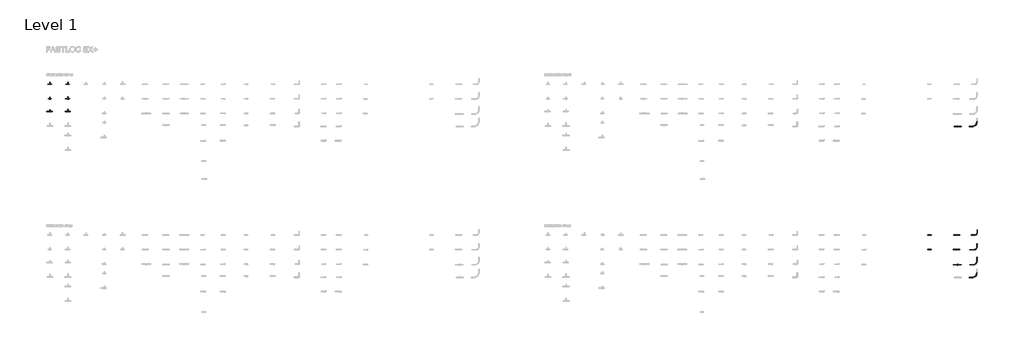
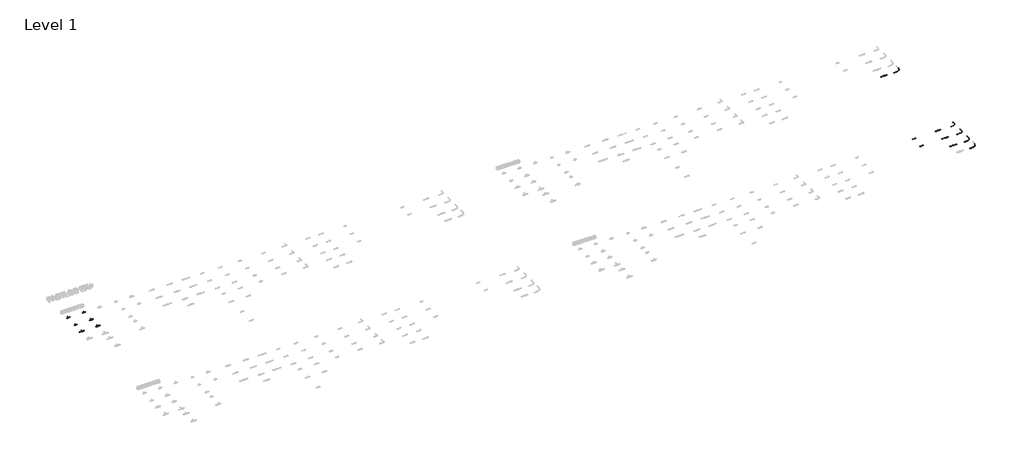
# One storey, part 10 of 16: 36 pipe segments, 21 pipe fittings.
"""IFC4 building model written with IfcOpenShell, lengths in millimetres."""

from ifc_helpers import new_model, si_unit, point, frame, frame_2d, origin, place, context, project, spatial, circle_curve, trimmed, segment, composite_curve, outline, extrude, transform, mapped, element, save
from components import pipe_fitting_24e9e25e, pipe_fitting_ffedae39, pipe_fitting_50552096, pipe_fitting_31065531, pipe_fitting_67dfde5a, pipe_fitting_bb304fa9, pipe_fitting_59775212, pipe_fitting_747b917b, pipe_fitting_d1a48cca, pipe_fitting_e42a4af1, pipe_fitting_ec6341fa, pipe_fitting_f3faa13c, pipe_fitting_a9a2f976, pipe_fitting_749d9a03, pipe_fitting_c9c9eba3, pipe_fitting_037c3912, pipe_fitting_a8fbe6ac, pipe_fitting_beb2161e, pipe_fitting_c1b6c9bd, pipe_fitting_c244d94c

model = new_model("IFC4")

# Units and contexts
model_context = context("Model", 3, world=origin())
ifc_project = project(units=[si_unit("LENGTHUNIT", "METRE", prefix="MILLI")], contexts=[model_context])

# Site, building, storey
site = spatial("IfcSite", under=ifc_project)
building = spatial("IfcBuilding", under=site)
storey = spatial("IfcBuildingStorey", under=building, Name="Level 1", Elevation=0.0)

# Pipe fittings
placement = place(None, origin())
pipe_fitting_shape = pipe_fitting_24e9e25e(model_context)
element("IfcPipeFitting", 1, ObjectType="FASTLOC_Blanking plug EX+ : FSL Bp EX+ AT", at=placement, inside=storey, context=model_context, shape_type="MappedRepresentation", body=[
    mapped(pipe_fitting_shape, transform((49851.3241081, -7087.6479967, 0.0), x_axis=(1.0, 0.0, 0.0), y_axis=(0.0, 1.0, 0.0), z_axis=(0.0, 0.0, 1.0))),
])
pipe_fitting_2_shape = pipe_fitting_ffedae39(model_context)
element("IfcPipeFitting", 2, ObjectType="FASTLOC_ML_bend : FSL ML DE", at=placement, inside=storey, context=model_context, shape_type="MappedRepresentation", body=[
    mapped(pipe_fitting_2_shape, transform((52570.2040344, -311.8142398, 0.0), x_axis=(1.0, 0.0, 0.0), y_axis=(0.0, 1.0, 0.0), z_axis=(0.0, 0.0, 1.0))),
])
pipe_fitting_3_shape = pipe_fitting_50552096(model_context)
element("IfcPipeFitting", 3, ObjectType="FASTLOC_ML_bend : FSL ML AT", at=placement, inside=storey, context=model_context, shape_type="MappedRepresentation", body=[
    mapped(pipe_fitting_3_shape, transform((52570.2040344, -7095.6479967, 0.0), x_axis=(1.0, 0.0, 0.0), y_axis=(0.0, 1.0, 0.0), z_axis=(0.0, 0.0, 1.0))),
])
pipe_fitting_4_shape = pipe_fitting_31065531(model_context)
element("IfcPipeFitting", 4, ObjectType="FASTLOC_ML_bend : FSL ML AT", at=placement, inside=storey, context=model_context, shape_type="MappedRepresentation", body=[
    mapped(pipe_fitting_4_shape, transform((52570.2040344, -7918.854246, 0.0), x_axis=(1.0, 0.0, 0.0), y_axis=(0.0, 1.0, 0.0), z_axis=(0.0, 0.0, 1.0))),
])
element("IfcPipeFitting", 5, ObjectType="FASTLOC_ML_bend : FSL ML AT", at=placement, inside=storey, context=model_context, shape_type="MappedRepresentation", body=[
    mapped(pipe_fitting_2_shape, transform((52570.2040344, -8611.8142398, 0.0), x_axis=(1.0, 0.0, 0.0), y_axis=(0.0, 1.0, 0.0), z_axis=(0.0, 0.0, 1.0))),
])
pipe_fitting_5_shape = pipe_fitting_67dfde5a(model_context)
element("IfcPipeFitting", 6, ObjectType="FASTLOC_T-piece_EX+ : FSL T-Piece EX+ DE", at=placement, inside=storey, context=model_context, shape_type="MappedRepresentation", body=[
    mapped(pipe_fitting_5_shape, transform((1562.9146925, 2012.3520033, 0.0), x_axis=(1.0, 0.0, 0.0), y_axis=(0.0, 1.0, 0.0), z_axis=(0.0, 0.0, 1.0))),
])
pipe_fitting_6_shape = pipe_fitting_bb304fa9(model_context)
element("IfcPipeFitting", 7, ObjectType="FASTLOC_T-piece_EX+ : FSL T-Piece EX+ DE", at=placement, inside=storey, context=model_context, shape_type="MappedRepresentation", body=[
    mapped(pipe_fitting_6_shape, transform((1562.9146925, 1212.3520033, 0.0), x_axis=(1.0, 0.0, 0.0), y_axis=(0.0, 1.0, 0.0), z_axis=(0.0, 0.0, 1.0))),
])
pipe_fitting_7_shape = pipe_fitting_59775212(model_context)
element("IfcPipeFitting", 8, ObjectType="FASTLOC_T-piece_EX+ : FSL T-Piece EX+ DE", at=placement, inside=storey, context=model_context, shape_type="MappedRepresentation", body=[
    mapped(pipe_fitting_7_shape, transform((1562.9146925, 512.3520033, 0.0), x_axis=(1.0, 0.0, 0.0), y_axis=(0.0, 1.0, 0.0), z_axis=(0.0, 0.0, 1.0))),
])
pipe_fitting_8_shape = pipe_fitting_747b917b(model_context)
element("IfcPipeFitting", 9, ObjectType="FASTLOC_T-piece_EX+ : FSL T-Piece EX+ DE", at=placement, inside=storey, context=model_context, shape_type="MappedRepresentation", body=[
    mapped(pipe_fitting_8_shape, transform((2562.9146925, 2012.3520033, 0.0), x_axis=(1.0, 0.0, 0.0), y_axis=(0.0, 1.0, 0.0), z_axis=(0.0, 0.0, 1.0))),
])
pipe_fitting_9_shape = pipe_fitting_d1a48cca(model_context)
element("IfcPipeFitting", 10, ObjectType="FASTLOC_T-piece_EX+ : FSL T-Piece EX+ DE", at=placement, inside=storey, context=model_context, shape_type="MappedRepresentation", body=[
    mapped(pipe_fitting_9_shape, transform((2562.9146925, 1212.3520033, 0.0), x_axis=(1.0, 0.0, 0.0), y_axis=(0.0, 1.0, 0.0), z_axis=(0.0, 0.0, 1.0))),
])
pipe_fitting_10_shape = pipe_fitting_e42a4af1(model_context)
element("IfcPipeFitting", 11, ObjectType="FASTLOC_T-piece_EX+ : FSL T-Piece EX+ DE", at=placement, inside=storey, context=model_context, shape_type="MappedRepresentation", body=[
    mapped(pipe_fitting_10_shape, transform((2562.9146925, 512.3520033, 0.0), x_axis=(1.0, 0.0, 0.0), y_axis=(0.0, 1.0, 0.0), z_axis=(0.0, 0.0, 1.0))),
])
pipe_fitting_11_shape = pipe_fitting_ec6341fa(model_context)
element("IfcPipeFitting", 12, ObjectType="FASTLOC_Blanking plug EX+ : FSL Bp EX+ AT", at=placement, inside=storey, context=model_context, shape_type="MappedRepresentation", body=[
    mapped(pipe_fitting_11_shape, transform((49851.3241081, -6287.6479967, 0.0), x_axis=(1.0, 0.0, 0.0), y_axis=(0.0, 1.0, 0.0), z_axis=(0.0, 0.0, 1.0))),
])
pipe_fitting_12_shape = pipe_fitting_f3faa13c(model_context)
element("IfcPipeFitting", 13, ObjectType="FASTLOC_Adapter coupling EX+ : FSL TC EX+ AT", at=placement, inside=storey, context=model_context, shape_type="MappedRepresentation", body=[
    mapped(pipe_fitting_12_shape, transform((51491.3241081, -6287.6479967, 13.7), x_axis=(1.0, 0.0, 0.0), y_axis=(0.0, 1.0, 0.0), z_axis=(0.0, 0.0, 1.0))),
])
pipe_fitting_13_shape = pipe_fitting_a9a2f976(model_context)
element("IfcPipeFitting", 14, ObjectType="FASTLOC_ML_bend : FSL ML AT", at=placement, inside=storey, context=model_context, shape_type="MappedRepresentation", body=[
    mapped(pipe_fitting_13_shape, transform((52570.2040344, -6287.6479967, 0.0), x_axis=(1.0, 0.0, 0.0), y_axis=(0.0, 1.0, 0.0), z_axis=(0.0, 0.0, 1.0))),
])
pipe_fitting_14_shape = pipe_fitting_749d9a03(model_context)
element("IfcPipeFitting", 15, ObjectType="RAUTITAN_Sleeve PX : RTI S PX", at=placement, inside=storey, context=model_context, shape_type="MappedRepresentation", body=[
    mapped(pipe_fitting_14_shape, transform((51505.6241081, -7087.6479967, 13.7), x_axis=(1.0, 0.0, 0.0), y_axis=(0.0, 1.0, 0.0), z_axis=(0.0, 0.0, 1.0))),
])
pipe_fitting_15_shape = pipe_fitting_c9c9eba3(model_context)
element("IfcPipeFitting", 16, ObjectType="RAUTITAN_Sleeve PX : RTI S PX", at=placement, inside=storey, context=model_context, shape_type="MappedRepresentation", body=[
    mapped(pipe_fitting_15_shape, transform((51505.0241081, -6287.6479967, 13.7), x_axis=(1.0, 0.0, 0.0), y_axis=(0.0, 1.0, 0.0), z_axis=(0.0, 0.0, 1.0))),
])
pipe_fitting_16_shape = pipe_fitting_037c3912(model_context)
element("IfcPipeFitting", 17, ObjectType="RAUTITAN_Sleeve PX : RTI S PX", at=placement, inside=storey, context=model_context, shape_type="MappedRepresentation", body=[
    mapped(pipe_fitting_16_shape, transform((51507.9241081, -7918.854246, 13.7), x_axis=(1.0, 0.0, 0.0), y_axis=(0.0, 1.0, 0.0), z_axis=(0.0, 0.0, 1.0))),
])
pipe_fitting_17_shape = pipe_fitting_a8fbe6ac(model_context)
element("IfcPipeFitting", 18, ObjectType="RAUTITAN_Sleeve PX : RTI S PX", at=placement, inside=storey, context=model_context, shape_type="MappedRepresentation", body=[
    mapped(pipe_fitting_17_shape, transform((51510.6241081, -311.8142398, 13.7), x_axis=(1.0, 0.0, 0.0), y_axis=(0.0, 1.0, 0.0), z_axis=(0.0, 0.0, 1.0))),
])
pipe_fitting_18_shape = pipe_fitting_beb2161e(model_context)
element("IfcPipeFitting", 19, ObjectType="FASTLOC_Adapter coupling EX+ : FSL TC EX+ DE", at=placement, inside=storey, context=model_context, shape_type="MappedRepresentation", body=[
    mapped(pipe_fitting_18_shape, transform((51491.3241081, -311.8142398, 13.7), x_axis=(1.0, 0.0, 0.0), y_axis=(0.0, 1.0, 0.0), z_axis=(0.0, 0.0, 1.0))),
])
pipe_fitting_19_shape = pipe_fitting_c1b6c9bd(model_context)
element("IfcPipeFitting", 20, ObjectType="FASTLOC_Adapter coupling EX+ : FSL TC EX+ AT", at=placement, inside=storey, context=model_context, shape_type="MappedRepresentation", body=[
    mapped(pipe_fitting_19_shape, transform((51491.3241081, -7087.6479967, 13.7), x_axis=(1.0, 0.0, 0.0), y_axis=(0.0, 1.0, 0.0), z_axis=(0.0, 0.0, 1.0))),
])
pipe_fitting_20_shape = pipe_fitting_c244d94c(model_context)
element("IfcPipeFitting", 21, ObjectType="FASTLOC_Adapter coupling EX+ : FSL TC EX+ AT", at=placement, inside=storey, context=model_context, shape_type="MappedRepresentation", body=[
    mapped(pipe_fitting_20_shape, transform((51491.3241081, -7918.854246, 13.7), x_axis=(1.0, 0.0, 0.0), y_axis=(0.0, 1.0, 0.0), z_axis=(0.0, 0.0, 1.0))),
])

# Pipe segments
element("IfcPipeSegment", 22, ObjectType="FASTLOC EX+ ML DE bar", at=placement, inside=storey, context=model_context, shape_type="SweptSolid", body=[
    extrude(outline(composite_curve([segment(trimmed(circle_curve(frame_2d((2012.3520033, 0.0)), 10.0), [point((2002.3520033, 0.0))], [point((2012.3520033, 10.0))], False, "CARTESIAN"), True, "CONTINUOUS"), segment(trimmed(circle_curve(frame_2d((2012.3520033, 0.0)), 10.0), [point((2012.3520033, 10.0))], [point((2022.3520033, 0.0))], False, "CARTESIAN"), True, "CONTINUOUS"), segment(trimmed(circle_curve(frame_2d((2012.3520033, 0.0)), 10.0), [point((2022.3520033, 0.0))], [point((2012.3520033, -10.0))], False, "CARTESIAN"), True, "CONTINUOUS"), segment(trimmed(circle_curve(frame_2d((2012.3520033, 0.0)), 10.0), [point((2012.3520033, -10.0))], [point((2002.3520033, 0.0))], False, "CARTESIAN"), True, "CONTINUOUS")], self_intersect=False)), frame((2578.2146925, 0.0, 0.0), z_axis=(1.0, 0.0, 0.0), x_axis=(0.0, 1.0, 0.0)), (0.0, 0.0, 1.0), 55.0),
])
element("IfcPipeSegment", 23, ObjectType="FASTLOC EX+ ML DE bar", at=placement, inside=storey, context=model_context, shape_type="SweptSolid", body=[
    extrude(outline(composite_curve([segment(trimmed(circle_curve(frame_2d((0.0, 2562.9146925)), 8.0), [point((0.0, 2570.9146925))], [point((8.0, 2562.9146925))], False, "CARTESIAN"), True, "CONTINUOUS"), segment(trimmed(circle_curve(frame_2d((0.0, 2562.9146925)), 8.0), [point((8.0, 2562.9146925))], [point((0.0, 2554.9146925))], False, "CARTESIAN"), True, "CONTINUOUS"), segment(trimmed(circle_curve(frame_2d((0.0, 2562.9146925)), 8.0), [point((0.0, 2554.9146925))], [point((-8.0, 2562.9146925))], False, "CARTESIAN"), True, "CONTINUOUS"), segment(trimmed(circle_curve(frame_2d((0.0, 2562.9146925)), 8.0), [point((-8.0, 2562.9146925))], [point((0.0, 2570.9146925))], False, "CARTESIAN"), True, "CONTINUOUS")], self_intersect=False)), frame((0.0, 2038.6520033, 0.0), z_axis=(0.0, 1.0, 0.0), x_axis=(0.0, 0.0, 1.0)), (0.0, 0.0, 1.0), 70.0),
])
element("IfcPipeSegment", 24, ObjectType="FASTLOC EX+ ML DE bar", at=placement, inside=storey, context=model_context, shape_type="SweptSolid", body=[
    extrude(outline(composite_curve([segment(trimmed(circle_curve(frame_2d((2012.3520033, 0.0)), 10.0), [point((2022.3520033, 0.0))], [point((2012.3520033, -10.0))], False, "CARTESIAN"), True, "CONTINUOUS"), segment(trimmed(circle_curve(frame_2d((2012.3520033, 0.0)), 10.0), [point((2012.3520033, -10.0))], [point((2002.3520033, 0.0))], False, "CARTESIAN"), True, "CONTINUOUS"), segment(trimmed(circle_curve(frame_2d((2012.3520033, 0.0)), 10.0), [point((2002.3520033, 0.0))], [point((2012.3520033, 10.0))], False, "CARTESIAN"), True, "CONTINUOUS"), segment(trimmed(circle_curve(frame_2d((2012.3520033, 0.0)), 10.0), [point((2012.3520033, 10.0))], [point((2022.3520033, 0.0))], False, "CARTESIAN"), True, "CONTINUOUS")], self_intersect=False)), frame((2437.6146925, 0.0, 0.0), z_axis=(1.0, 0.0, 0.0), x_axis=(0.0, 1.0, 0.0)), (0.0, 0.0, 1.0), 110.0),
])
element("IfcPipeSegment", 25, ObjectType="FASTLOC EX+ ML DE bar", at=placement, inside=storey, context=model_context, shape_type="SweptSolid", body=[
    extrude(outline(composite_curve([segment(trimmed(circle_curve(frame_2d((1212.3520033, 0.0)), 12.5), [point((1199.8520033, 0.0))], [point((1212.3520033, 12.5))], False, "CARTESIAN"), True, "CONTINUOUS"), segment(trimmed(circle_curve(frame_2d((1212.3520033, 0.0)), 12.5), [point((1212.3520033, 12.5))], [point((1224.8520033, 0.0))], False, "CARTESIAN"), True, "CONTINUOUS"), segment(trimmed(circle_curve(frame_2d((1212.3520033, 0.0)), 12.5), [point((1224.8520033, 0.0))], [point((1212.3520033, -12.5))], False, "CARTESIAN"), True, "CONTINUOUS"), segment(trimmed(circle_curve(frame_2d((1212.3520033, 0.0)), 12.5), [point((1212.3520033, -12.5))], [point((1199.8520033, 0.0))], False, "CARTESIAN"), True, "CONTINUOUS")], self_intersect=False)), frame((2581.0146925, 0.0, 0.0), z_axis=(1.0, 0.0, 0.0), x_axis=(0.0, 1.0, 0.0)), (0.0, 0.0, 1.0), 80.0),
])
element("IfcPipeSegment", 26, ObjectType="FASTLOC EX+ ML DE bar", at=placement, inside=storey, context=model_context, shape_type="SweptSolid", body=[
    extrude(outline(composite_curve([segment(trimmed(circle_curve(frame_2d((0.0, 2562.9146925)), 10.0), [point((0.0, 2572.9146925))], [point((10.0, 2562.9146925))], False, "CARTESIAN"), True, "CONTINUOUS"), segment(trimmed(circle_curve(frame_2d((0.0, 2562.9146925)), 10.0), [point((10.0, 2562.9146925))], [point((0.0, 2552.9146925))], False, "CARTESIAN"), True, "CONTINUOUS"), segment(trimmed(circle_curve(frame_2d((0.0, 2562.9146925)), 10.0), [point((0.0, 2552.9146925))], [point((-10.0, 2562.9146925))], False, "CARTESIAN"), True, "CONTINUOUS"), segment(trimmed(circle_curve(frame_2d((0.0, 2562.9146925)), 10.0), [point((-10.0, 2562.9146925))], [point((0.0, 2572.9146925))], False, "CARTESIAN"), True, "CONTINUOUS")], self_intersect=False)), frame((0.0, 1241.5520033, 0.0), z_axis=(0.0, 1.0, 0.0), x_axis=(0.0, 0.0, 1.0)), (0.0, 0.0, 1.0), 90.0),
])
element("IfcPipeSegment", 27, ObjectType="FASTLOC EX+ ML DE bar", at=placement, inside=storey, context=model_context, shape_type="SweptSolid", body=[
    extrude(outline(composite_curve([segment(trimmed(circle_curve(frame_2d((1212.3520033, 0.0)), 12.5), [point((1224.8520033, 0.0))], [point((1212.3520033, -12.5))], False, "CARTESIAN"), True, "CONTINUOUS"), segment(trimmed(circle_curve(frame_2d((1212.3520033, 0.0)), 12.5), [point((1212.3520033, -12.5))], [point((1199.8520033, 0.0))], False, "CARTESIAN"), True, "CONTINUOUS"), segment(trimmed(circle_curve(frame_2d((1212.3520033, 0.0)), 12.5), [point((1199.8520033, 0.0))], [point((1212.3520033, 12.5))], False, "CARTESIAN"), True, "CONTINUOUS"), segment(trimmed(circle_curve(frame_2d((1212.3520033, 0.0)), 12.5), [point((1212.3520033, 12.5))], [point((1224.8520033, 0.0))], False, "CARTESIAN"), True, "CONTINUOUS")], self_intersect=False)), frame((2409.8146925, 0.0, 0.0), z_axis=(1.0, 0.0, 0.0), x_axis=(0.0, 1.0, 0.0)), (0.0, 0.0, 1.0), 135.0),
])
element("IfcPipeSegment", 28, ObjectType="FASTLOC EX+ ML DE bar", at=placement, inside=storey, context=model_context, shape_type="SweptSolid", body=[
    extrude(outline(composite_curve([segment(trimmed(circle_curve(frame_2d((512.3520033, 0.0)), 16.0), [point((496.3520033, 0.0))], [point((512.3520033, 16.0))], False, "CARTESIAN"), True, "CONTINUOUS"), segment(trimmed(circle_curve(frame_2d((512.3520033, 0.0)), 16.0), [point((512.3520033, 16.0))], [point((528.3520033, 0.0))], False, "CARTESIAN"), True, "CONTINUOUS"), segment(trimmed(circle_curve(frame_2d((512.3520033, 0.0)), 16.0), [point((528.3520033, 0.0))], [point((512.3520033, -16.0))], False, "CARTESIAN"), True, "CONTINUOUS"), segment(trimmed(circle_curve(frame_2d((512.3520033, 0.0)), 16.0), [point((512.3520033, -16.0))], [point((496.3520033, 0.0))], False, "CARTESIAN"), True, "CONTINUOUS")], self_intersect=False)), frame((2581.2146925, 0.0, 0.0), z_axis=(1.0, 0.0, 0.0), x_axis=(0.0, 1.0, 0.0)), (0.0, 0.0, 1.0), 90.0),
])
element("IfcPipeSegment", 29, ObjectType="FASTLOC EX+ ML DE bar", at=placement, inside=storey, context=model_context, shape_type="SweptSolid", body=[
    extrude(outline(composite_curve([segment(trimmed(circle_curve(frame_2d((0.0, 2562.9146925)), 8.0), [point((0.0, 2570.9146925))], [point((8.0, 2562.9146925))], False, "CARTESIAN"), True, "CONTINUOUS"), segment(trimmed(circle_curve(frame_2d((0.0, 2562.9146925)), 8.0), [point((8.0, 2562.9146925))], [point((0.0, 2554.9146925))], False, "CARTESIAN"), True, "CONTINUOUS"), segment(trimmed(circle_curve(frame_2d((0.0, 2562.9146925)), 8.0), [point((0.0, 2554.9146925))], [point((-8.0, 2562.9146925))], False, "CARTESIAN"), True, "CONTINUOUS"), segment(trimmed(circle_curve(frame_2d((0.0, 2562.9146925)), 8.0), [point((-8.0, 2562.9146925))], [point((0.0, 2570.9146925))], False, "CARTESIAN"), True, "CONTINUOUS")], self_intersect=False)), frame((0.0, 546.2520033, 0.0), z_axis=(0.0, 1.0, 0.0), x_axis=(0.0, 0.0, 1.0)), (0.0, 0.0, 1.0), 90.0),
])
element("IfcPipeSegment", 30, ObjectType="FASTLOC EX+ ML DE bar", at=placement, inside=storey, context=model_context, shape_type="SweptSolid", body=[
    extrude(outline(composite_curve([segment(trimmed(circle_curve(frame_2d((512.3520033, 0.0)), 16.0), [point((528.3520033, 0.0))], [point((512.3520033, -16.0))], False, "CARTESIAN"), True, "CONTINUOUS"), segment(trimmed(circle_curve(frame_2d((512.3520033, 0.0)), 16.0), [point((512.3520033, -16.0))], [point((496.3520033, 0.0))], False, "CARTESIAN"), True, "CONTINUOUS"), segment(trimmed(circle_curve(frame_2d((512.3520033, 0.0)), 16.0), [point((496.3520033, 0.0))], [point((512.3520033, 16.0))], False, "CARTESIAN"), True, "CONTINUOUS"), segment(trimmed(circle_curve(frame_2d((512.3520033, 0.0)), 16.0), [point((512.3520033, 16.0))], [point((528.3520033, 0.0))], False, "CARTESIAN"), True, "CONTINUOUS")], self_intersect=False)), frame((2414.6146925, 0.0, 0.0), z_axis=(1.0, 0.0, 0.0), x_axis=(0.0, 1.0, 0.0)), (0.0, 0.0, 1.0), 130.0),
])
element("IfcPipeSegment", 31, ObjectType="FASTLOC EX+ ML DE bar", at=placement, inside=storey, context=model_context, shape_type="SweptSolid", body=[
    extrude(outline(composite_curve([segment(trimmed(circle_curve(frame_2d((0.0, 1562.9146925)), 12.5), [point((0.0, 1575.4146925))], [point((12.5, 1562.9146925))], False, "CARTESIAN"), True, "CONTINUOUS"), segment(trimmed(circle_curve(frame_2d((0.0, 1562.9146925)), 12.5), [point((12.5, 1562.9146925))], [point((0.0, 1550.4146925))], False, "CARTESIAN"), True, "CONTINUOUS"), segment(trimmed(circle_curve(frame_2d((0.0, 1562.9146925)), 12.5), [point((0.0, 1550.4146925))], [point((-12.5, 1562.9146925))], False, "CARTESIAN"), True, "CONTINUOUS"), segment(trimmed(circle_curve(frame_2d((0.0, 1562.9146925)), 12.5), [point((-12.5, 1562.9146925))], [point((0.0, 1575.4146925))], False, "CARTESIAN"), True, "CONTINUOUS")], self_intersect=False)), frame((0.0, 541.8520033, 0.0), z_axis=(0.0, 1.0, 0.0), x_axis=(0.0, 0.0, 1.0)), (0.0, 0.0, 1.0), 70.0),
])
element("IfcPipeSegment", 32, ObjectType="FASTLOC EX+ ML DE bar", at=placement, inside=storey, context=model_context, shape_type="SweptSolid", body=[
    extrude(outline(composite_curve([segment(trimmed(circle_curve(frame_2d((512.3520033, 0.0)), 12.5), [point((499.8520033, 0.0))], [point((512.3520033, 12.5))], False, "CARTESIAN"), True, "CONTINUOUS"), segment(trimmed(circle_curve(frame_2d((512.3520033, 0.0)), 12.5), [point((512.3520033, 12.5))], [point((524.8520033, 0.0))], False, "CARTESIAN"), True, "CONTINUOUS"), segment(trimmed(circle_curve(frame_2d((512.3520033, 0.0)), 12.5), [point((524.8520033, 0.0))], [point((512.3520033, -12.5))], False, "CARTESIAN"), True, "CONTINUOUS"), segment(trimmed(circle_curve(frame_2d((512.3520033, 0.0)), 12.5), [point((512.3520033, -12.5))], [point((499.8520033, 0.0))], False, "CARTESIAN"), True, "CONTINUOUS")], self_intersect=False)), frame((1582.8146925, 0.0, 0.0), z_axis=(1.0, 0.0, 0.0), x_axis=(0.0, 1.0, 0.0)), (0.0, 0.0, 1.0), 105.0),
])
element("IfcPipeSegment", 33, ObjectType="FASTLOC EX+ ML DE bar", at=placement, inside=storey, context=model_context, shape_type="SweptSolid", body=[
    extrude(outline(composite_curve([segment(trimmed(circle_curve(frame_2d((512.3520033, 0.0)), 12.5), [point((524.8520033, 0.0))], [point((512.3520033, -12.5))], False, "CARTESIAN"), True, "CONTINUOUS"), segment(trimmed(circle_curve(frame_2d((512.3520033, 0.0)), 12.5), [point((512.3520033, -12.5))], [point((499.8520033, 0.0))], False, "CARTESIAN"), True, "CONTINUOUS"), segment(trimmed(circle_curve(frame_2d((512.3520033, 0.0)), 12.5), [point((499.8520033, 0.0))], [point((512.3520033, 12.5))], False, "CARTESIAN"), True, "CONTINUOUS"), segment(trimmed(circle_curve(frame_2d((512.3520033, 0.0)), 12.5), [point((512.3520033, 12.5))], [point((524.8520033, 0.0))], False, "CARTESIAN"), True, "CONTINUOUS")], self_intersect=False)), frame((1378.0146925, 0.0, 0.0), z_axis=(1.0, 0.0, 0.0), x_axis=(0.0, 1.0, 0.0)), (0.0, 0.0, 1.0), 165.0),
])
element("IfcPipeSegment", 34, ObjectType="FASTLOC EX+ ML DE bar", at=placement, inside=storey, context=model_context, shape_type="SweptSolid", body=[
    extrude(outline(composite_curve([segment(trimmed(circle_curve(frame_2d((1212.3520033, 0.0)), 10.0), [point((1202.3520033, 0.0))], [point((1212.3520033, 10.0))], False, "CARTESIAN"), True, "CONTINUOUS"), segment(trimmed(circle_curve(frame_2d((1212.3520033, 0.0)), 10.0), [point((1212.3520033, 10.0))], [point((1222.3520033, 0.0))], False, "CARTESIAN"), True, "CONTINUOUS"), segment(trimmed(circle_curve(frame_2d((1212.3520033, 0.0)), 10.0), [point((1222.3520033, 0.0))], [point((1212.3520033, -10.0))], False, "CARTESIAN"), True, "CONTINUOUS"), segment(trimmed(circle_curve(frame_2d((1212.3520033, 0.0)), 10.0), [point((1212.3520033, -10.0))], [point((1202.3520033, 0.0))], False, "CARTESIAN"), True, "CONTINUOUS")], self_intersect=False)), frame((1580.1146925, 0.0, 0.0), z_axis=(1.0, 0.0, 0.0), x_axis=(0.0, 1.0, 0.0)), (0.0, 0.0, 1.0), 65.0),
])
element("IfcPipeSegment", 35, ObjectType="FASTLOC EX+ ML DE bar", at=placement, inside=storey, context=model_context, shape_type="SweptSolid", body=[
    extrude(outline(composite_curve([segment(trimmed(circle_curve(frame_2d((0.0, 1562.9146925)), 10.0), [point((0.0, 1572.9146925))], [point((10.0, 1562.9146925))], False, "CARTESIAN"), True, "CONTINUOUS"), segment(trimmed(circle_curve(frame_2d((0.0, 1562.9146925)), 10.0), [point((10.0, 1562.9146925))], [point((0.0, 1552.9146925))], False, "CARTESIAN"), True, "CONTINUOUS"), segment(trimmed(circle_curve(frame_2d((0.0, 1562.9146925)), 10.0), [point((0.0, 1552.9146925))], [point((-10.0, 1562.9146925))], False, "CARTESIAN"), True, "CONTINUOUS"), segment(trimmed(circle_curve(frame_2d((0.0, 1562.9146925)), 10.0), [point((-10.0, 1562.9146925))], [point((0.0, 1572.9146925))], False, "CARTESIAN"), True, "CONTINUOUS")], self_intersect=False)), frame((0.0, 1238.7520033, 0.0), z_axis=(0.0, 1.0, 0.0), x_axis=(0.0, 0.0, 1.0)), (0.0, 0.0, 1.0), 65.0),
])
element("IfcPipeSegment", 36, ObjectType="FASTLOC EX+ ML DE bar", at=placement, inside=storey, context=model_context, shape_type="SweptSolid", body=[
    extrude(outline(composite_curve([segment(trimmed(circle_curve(frame_2d((1212.3520033, 0.0)), 10.0), [point((1222.3520033, 0.0))], [point((1212.3520033, -10.0))], False, "CARTESIAN"), True, "CONTINUOUS"), segment(trimmed(circle_curve(frame_2d((1212.3520033, 0.0)), 10.0), [point((1212.3520033, -10.0))], [point((1202.3520033, 0.0))], False, "CARTESIAN"), True, "CONTINUOUS"), segment(trimmed(circle_curve(frame_2d((1212.3520033, 0.0)), 10.0), [point((1202.3520033, 0.0))], [point((1212.3520033, 10.0))], False, "CARTESIAN"), True, "CONTINUOUS"), segment(trimmed(circle_curve(frame_2d((1212.3520033, 0.0)), 10.0), [point((1212.3520033, 10.0))], [point((1222.3520033, 0.0))], False, "CARTESIAN"), True, "CONTINUOUS")], self_intersect=False)), frame((1460.7146925, 0.0, 0.0), z_axis=(1.0, 0.0, 0.0), x_axis=(0.0, 1.0, 0.0)), (0.0, 0.0, 1.0), 85.0),
])
element("IfcPipeSegment", 37, ObjectType="FASTLOC EX+ ML AT bar", at=placement, inside=storey, context=model_context, shape_type="SweptSolid", body=[
    extrude(outline(composite_curve([segment(trimmed(circle_curve(frame_2d((2012.3520033, 0.0)), 8.0), [point((2004.3520033, 0.0))], [point((2012.3520033, 8.0))], False, "CARTESIAN"), True, "CONTINUOUS"), segment(trimmed(circle_curve(frame_2d((2012.3520033, 0.0)), 8.0), [point((2012.3520033, 8.0))], [point((2020.3520033, 0.0))], False, "CARTESIAN"), True, "CONTINUOUS"), segment(trimmed(circle_curve(frame_2d((2012.3520033, 0.0)), 8.0), [point((2020.3520033, 0.0))], [point((2012.3520033, -8.0))], False, "CARTESIAN"), True, "CONTINUOUS"), segment(trimmed(circle_curve(frame_2d((2012.3520033, 0.0)), 8.0), [point((2012.3520033, -8.0))], [point((2004.3520033, 0.0))], False, "CARTESIAN"), True, "CONTINUOUS")], self_intersect=False)), frame((1577.9146925, 0.0, 0.0), z_axis=(1.0, 0.0, 0.0), x_axis=(0.0, 1.0, 0.0)), (0.0, 0.0, 1.0), 90.0),
])
element("IfcPipeSegment", 38, ObjectType="FASTLOC EX+ ML DE bar", at=placement, inside=storey, context=model_context, shape_type="SweptSolid", body=[
    extrude(outline(composite_curve([segment(trimmed(circle_curve(frame_2d((2012.3520033, 0.0)), 8.0), [point((2020.3520033, 0.0))], [point((2012.3520033, -8.0))], False, "CARTESIAN"), True, "CONTINUOUS"), segment(trimmed(circle_curve(frame_2d((2012.3520033, 0.0)), 8.0), [point((2012.3520033, -8.0))], [point((2004.3520033, 0.0))], False, "CARTESIAN"), True, "CONTINUOUS"), segment(trimmed(circle_curve(frame_2d((2012.3520033, 0.0)), 8.0), [point((2004.3520033, 0.0))], [point((2012.3520033, 8.0))], False, "CARTESIAN"), True, "CONTINUOUS"), segment(trimmed(circle_curve(frame_2d((2012.3520033, 0.0)), 8.0), [point((2012.3520033, 8.0))], [point((2020.3520033, 0.0))], False, "CARTESIAN"), True, "CONTINUOUS")], self_intersect=False)), frame((1457.9146925, 0.0, 0.0), z_axis=(1.0, 0.0, 0.0), x_axis=(0.0, 1.0, 0.0)), (0.0, 0.0, 1.0), 90.0),
])
element("IfcPipeSegment", 39, ObjectType="FASTLOC EX+ ML DE bar", at=placement, inside=storey, context=model_context, shape_type="SweptSolid", body=[
    extrude(outline(composite_curve([segment(trimmed(circle_curve(frame_2d((0.0, 1562.9146925)), 8.0), [point((0.0, 1570.9146925))], [point((8.0, 1562.9146925))], False, "CARTESIAN"), True, "CONTINUOUS"), segment(trimmed(circle_curve(frame_2d((0.0, 1562.9146925)), 8.0), [point((8.0, 1562.9146925))], [point((0.0, 1554.9146925))], False, "CARTESIAN"), True, "CONTINUOUS"), segment(trimmed(circle_curve(frame_2d((0.0, 1562.9146925)), 8.0), [point((0.0, 1554.9146925))], [point((-8.0, 1562.9146925))], False, "CARTESIAN"), True, "CONTINUOUS"), segment(trimmed(circle_curve(frame_2d((0.0, 1562.9146925)), 8.0), [point((-8.0, 1562.9146925))], [point((0.0, 1570.9146925))], False, "CARTESIAN"), True, "CONTINUOUS")], self_intersect=False)), frame((0.0, 2034.4520033, 0.0), z_axis=(0.0, 1.0, 0.0), x_axis=(0.0, 0.0, 1.0)), (0.0, 0.0, 1.0), 95.0),
])
element("IfcPipeSegment", 40, ObjectType="FASTLOC EX+ ML DE coil", at=placement, inside=storey, context=model_context, shape_type="SweptSolid", body=[
    extrude(outline(composite_curve([segment(trimmed(circle_curve(frame_2d((-311.8142398, 0.0)), 16.0), [point((-295.8142398, 0.0))], [point((-311.8142398, -16.0))], False, "CARTESIAN"), True, "CONTINUOUS"), segment(trimmed(circle_curve(frame_2d((-311.8142398, 0.0)), 16.0), [point((-311.8142398, -16.0))], [point((-327.8142398, 0.0))], False, "CARTESIAN"), True, "CONTINUOUS"), segment(trimmed(circle_curve(frame_2d((-311.8142398, 0.0)), 16.0), [point((-327.8142398, 0.0))], [point((-311.8142398, 16.0))], False, "CARTESIAN"), True, "CONTINUOUS"), segment(trimmed(circle_curve(frame_2d((-311.8142398, 0.0)), 16.0), [point((-311.8142398, 16.0))], [point((-295.8142398, 0.0))], False, "CARTESIAN"), True, "CONTINUOUS")], self_intersect=False)), frame((52130.2040344, 0.0, 0.0), z_axis=(1.0, 0.0, 0.0), x_axis=(0.0, 1.0, 0.0)), (0.0, 0.0, 1.0), 184.0),
])
element("IfcPipeSegment", 41, ObjectType="FASTLOC EX+ ML DE coil", at=placement, inside=storey, context=model_context, shape_type="SweptSolid", body=[
    extrude(outline(composite_curve([segment(trimmed(circle_curve(frame_2d((-311.8142398, 13.7)), 16.0), [point((-327.8142398, 13.7))], [point((-311.8142398, 29.7))], False, "CARTESIAN"), True, "CONTINUOUS"), segment(trimmed(circle_curve(frame_2d((-311.8142398, 13.7)), 16.0), [point((-311.8142398, 29.7))], [point((-295.8142398, 13.7))], False, "CARTESIAN"), True, "CONTINUOUS"), segment(trimmed(circle_curve(frame_2d((-311.8142398, 13.7)), 16.0), [point((-295.8142398, 13.7))], [point((-311.8142398, -2.3))], False, "CARTESIAN"), True, "CONTINUOUS"), segment(trimmed(circle_curve(frame_2d((-311.8142398, 13.7)), 16.0), [point((-311.8142398, -2.3))], [point((-327.8142398, 13.7))], False, "CARTESIAN"), True, "CONTINUOUS")], self_intersect=False)), frame((51510.6241081, 0.0, 0.0), z_axis=(1.0, 0.0, 0.0), x_axis=(0.0, 1.0, 0.0)), (0.0, 0.0, 1.0), 180.0),
])
element("IfcPipeSegment", 42, ObjectType="FASTLOC EX+ ML DE coil", at=placement, inside=storey, context=model_context, shape_type="SweptSolid", body=[
    extrude(outline(composite_curve([segment(trimmed(circle_curve(frame_2d((-311.8142398, 13.7)), 16.0), [point((-295.8142398, 13.7))], [point((-311.8142398, -2.3))], False, "CARTESIAN"), True, "CONTINUOUS"), segment(trimmed(circle_curve(frame_2d((-311.8142398, 13.7)), 16.0), [point((-311.8142398, -2.3))], [point((-327.8142398, 13.7))], False, "CARTESIAN"), True, "CONTINUOUS"), segment(trimmed(circle_curve(frame_2d((-311.8142398, 13.7)), 16.0), [point((-327.8142398, 13.7))], [point((-311.8142398, 29.7))], False, "CARTESIAN"), True, "CONTINUOUS"), segment(trimmed(circle_curve(frame_2d((-311.8142398, 13.7)), 16.0), [point((-311.8142398, 29.7))], [point((-295.8142398, 13.7))], False, "CARTESIAN"), True, "CONTINUOUS")], self_intersect=False)), frame((51305.8241081, 0.0, 0.0), z_axis=(1.0, 0.0, 0.0), x_axis=(0.0, 1.0, 0.0)), (0.0, 0.0, 1.0), 180.0),
])
element("IfcPipeSegment", 43, ObjectType="FASTLOC EX+ ML AT coil", at=placement, inside=storey, context=model_context, shape_type="SweptSolid", body=[
    extrude(outline(composite_curve([segment(trimmed(circle_curve(frame_2d((0.0, 52570.2040344)), 8.0), [point((0.0, 52578.2040344))], [point((8.0, 52570.2040344))], False, "CARTESIAN"), True, "CONTINUOUS"), segment(trimmed(circle_curve(frame_2d((0.0, 52570.2040344)), 8.0), [point((8.0, 52570.2040344))], [point((0.0, 52562.2040344))], False, "CARTESIAN"), True, "CONTINUOUS"), segment(trimmed(circle_curve(frame_2d((0.0, 52570.2040344)), 8.0), [point((0.0, 52562.2040344))], [point((-8.0, 52570.2040344))], False, "CARTESIAN"), True, "CONTINUOUS"), segment(trimmed(circle_curve(frame_2d((0.0, 52570.2040344)), 8.0), [point((-8.0, 52570.2040344))], [point((0.0, 52578.2040344))], False, "CARTESIAN"), True, "CONTINUOUS")], self_intersect=False)), frame((0.0, -6159.6479967, 0.0), z_axis=(0.0, 1.0, 0.0), x_axis=(0.0, 0.0, 1.0)), (0.0, 0.0, 1.0), 160.0),
])
element("IfcPipeSegment", 44, ObjectType="FASTLOC EX+ ML AT coil", at=placement, inside=storey, context=model_context, shape_type="SweptSolid", body=[
    extrude(outline(composite_curve([segment(trimmed(circle_curve(frame_2d((-6287.6479967, 0.0)), 8.0), [point((-6279.6479967, 0.0))], [point((-6287.6479967, -8.0))], False, "CARTESIAN"), True, "CONTINUOUS"), segment(trimmed(circle_curve(frame_2d((-6287.6479967, 0.0)), 8.0), [point((-6287.6479967, -8.0))], [point((-6295.6479967, 0.0))], False, "CARTESIAN"), True, "CONTINUOUS"), segment(trimmed(circle_curve(frame_2d((-6287.6479967, 0.0)), 8.0), [point((-6295.6479967, 0.0))], [point((-6287.6479967, 8.0))], False, "CARTESIAN"), True, "CONTINUOUS"), segment(trimmed(circle_curve(frame_2d((-6287.6479967, 0.0)), 8.0), [point((-6287.6479967, 8.0))], [point((-6279.6479967, 0.0))], False, "CARTESIAN"), True, "CONTINUOUS")], self_intersect=False)), frame((52250.2040344, 0.0, 0.0), z_axis=(1.0, 0.0, 0.0), x_axis=(0.0, 1.0, 0.0)), (0.0, 0.0, 1.0), 192.0),
])
element("IfcPipeSegment", 45, ObjectType="FASTLOC EX+ ML AT coil", at=placement, inside=storey, context=model_context, shape_type="SweptSolid", body=[
    extrude(outline(composite_curve([segment(trimmed(circle_curve(frame_2d((0.0, 52570.2040344)), 10.0), [point((0.0, 52580.2040344))], [point((10.0, 52570.2040344))], False, "CARTESIAN"), True, "CONTINUOUS"), segment(trimmed(circle_curve(frame_2d((0.0, 52570.2040344)), 10.0), [point((10.0, 52570.2040344))], [point((0.0, 52560.2040344))], False, "CARTESIAN"), True, "CONTINUOUS"), segment(trimmed(circle_curve(frame_2d((0.0, 52570.2040344)), 10.0), [point((0.0, 52560.2040344))], [point((-10.0, 52570.2040344))], False, "CARTESIAN"), True, "CONTINUOUS"), segment(trimmed(circle_curve(frame_2d((0.0, 52570.2040344)), 10.0), [point((-10.0, 52570.2040344))], [point((0.0, 52580.2040344))], False, "CARTESIAN"), True, "CONTINUOUS")], self_intersect=False)), frame((0.0, -6935.6479967, 0.0), z_axis=(0.0, 1.0, 0.0), x_axis=(0.0, 0.0, 1.0)), (0.0, 0.0, 1.0), 180.0),
])
element("IfcPipeSegment", 46, ObjectType="FASTLOC EX+ ML AT coil", at=placement, inside=storey, context=model_context, shape_type="SweptSolid", body=[
    extrude(outline(composite_curve([segment(trimmed(circle_curve(frame_2d((-7095.6479967, 0.0)), 10.0), [point((-7085.6479967, 0.0))], [point((-7095.6479967, -10.0))], False, "CARTESIAN"), True, "CONTINUOUS"), segment(trimmed(circle_curve(frame_2d((-7095.6479967, 0.0)), 10.0), [point((-7095.6479967, -10.0))], [point((-7105.6479967, 0.0))], False, "CARTESIAN"), True, "CONTINUOUS"), segment(trimmed(circle_curve(frame_2d((-7095.6479967, 0.0)), 10.0), [point((-7105.6479967, 0.0))], [point((-7095.6479967, 10.0))], False, "CARTESIAN"), True, "CONTINUOUS"), segment(trimmed(circle_curve(frame_2d((-7095.6479967, 0.0)), 10.0), [point((-7095.6479967, 10.0))], [point((-7085.6479967, 0.0))], False, "CARTESIAN"), True, "CONTINUOUS")], self_intersect=False)), frame((52170.2040344, 0.0, 0.0), z_axis=(1.0, 0.0, 0.0), x_axis=(0.0, 1.0, 0.0)), (0.0, 0.0, 1.0), 240.0),
])
element("IfcPipeSegment", 47, ObjectType="FASTLOC EX+ ML AT coil", at=placement, inside=storey, context=model_context, shape_type="SweptSolid", body=[
    extrude(outline(composite_curve([segment(trimmed(circle_curve(frame_2d((0.0, 52570.2040344)), 12.5), [point((0.0, 52582.7040344))], [point((12.5, 52570.2040344))], False, "CARTESIAN"), True, "CONTINUOUS"), segment(trimmed(circle_curve(frame_2d((0.0, 52570.2040344)), 12.5), [point((12.5, 52570.2040344))], [point((0.0, 52557.7040344))], False, "CARTESIAN"), True, "CONTINUOUS"), segment(trimmed(circle_curve(frame_2d((0.0, 52570.2040344)), 12.5), [point((0.0, 52557.7040344))], [point((-12.5, 52570.2040344))], False, "CARTESIAN"), True, "CONTINUOUS"), segment(trimmed(circle_curve(frame_2d((0.0, 52570.2040344)), 12.5), [point((-12.5, 52570.2040344))], [point((0.0, 52582.7040344))], False, "CARTESIAN"), True, "CONTINUOUS")], self_intersect=False)), frame((0.0, -7718.854246, 0.0), z_axis=(0.0, 1.0, 0.0), x_axis=(0.0, 0.0, 1.0)), (0.0, 0.0, 1.0), 200.0),
])
element("IfcPipeSegment", 48, ObjectType="FASTLOC EX+ ML AT coil", at=placement, inside=storey, context=model_context, shape_type="SweptSolid", body=[
    extrude(outline(composite_curve([segment(trimmed(circle_curve(frame_2d((-7918.854246, 0.0)), 12.5), [point((-7906.354246, 0.0))], [point((-7918.854246, -12.5))], False, "CARTESIAN"), True, "CONTINUOUS"), segment(trimmed(circle_curve(frame_2d((-7918.854246, 0.0)), 12.5), [point((-7918.854246, -12.5))], [point((-7931.354246, 0.0))], False, "CARTESIAN"), True, "CONTINUOUS"), segment(trimmed(circle_curve(frame_2d((-7918.854246, 0.0)), 12.5), [point((-7931.354246, 0.0))], [point((-7918.854246, 12.5))], False, "CARTESIAN"), True, "CONTINUOUS"), segment(trimmed(circle_curve(frame_2d((-7918.854246, 0.0)), 12.5), [point((-7918.854246, 12.5))], [point((-7906.354246, 0.0))], False, "CARTESIAN"), True, "CONTINUOUS")], self_intersect=False)), frame((52170.2040344, 0.0, 0.0), z_axis=(1.0, 0.0, 0.0), x_axis=(0.0, 1.0, 0.0)), (0.0, 0.0, 1.0), 200.0),
])
element("IfcPipeSegment", 49, ObjectType="FASTLOC EX+ ML AT coil", at=placement, inside=storey, context=model_context, shape_type="SweptSolid", body=[
    extrude(outline(composite_curve([segment(trimmed(circle_curve(frame_2d((-8611.8142398, 0.0)), 16.0), [point((-8595.8142398, 0.0))], [point((-8611.8142398, -16.0))], False, "CARTESIAN"), True, "CONTINUOUS"), segment(trimmed(circle_curve(frame_2d((-8611.8142398, 0.0)), 16.0), [point((-8611.8142398, -16.0))], [point((-8627.8142398, 0.0))], False, "CARTESIAN"), True, "CONTINUOUS"), segment(trimmed(circle_curve(frame_2d((-8611.8142398, 0.0)), 16.0), [point((-8627.8142398, 0.0))], [point((-8611.8142398, 16.0))], False, "CARTESIAN"), True, "CONTINUOUS"), segment(trimmed(circle_curve(frame_2d((-8611.8142398, 0.0)), 16.0), [point((-8611.8142398, 16.0))], [point((-8595.8142398, 0.0))], False, "CARTESIAN"), True, "CONTINUOUS")], self_intersect=False)), frame((52130.2040344, 0.0, 0.0), z_axis=(1.0, 0.0, 0.0), x_axis=(0.0, 1.0, 0.0)), (0.0, 0.0, 1.0), 184.0),
])
element("IfcPipeSegment", 50, ObjectType="FASTLOC EX+ ML AT coil", at=placement, inside=storey, context=model_context, shape_type="SweptSolid", body=[
    extrude(outline(composite_curve([segment(trimmed(circle_curve(frame_2d((-7918.854246, 13.7)), 12.5), [point((-7906.354246, 13.7))], [point((-7918.854246, 1.2))], False, "CARTESIAN"), True, "CONTINUOUS"), segment(trimmed(circle_curve(frame_2d((-7918.854246, 13.7)), 12.5), [point((-7918.854246, 1.2))], [point((-7931.354246, 13.7))], False, "CARTESIAN"), True, "CONTINUOUS"), segment(trimmed(circle_curve(frame_2d((-7918.854246, 13.7)), 12.5), [point((-7931.354246, 13.7))], [point((-7918.854246, 26.2))], False, "CARTESIAN"), True, "CONTINUOUS"), segment(trimmed(circle_curve(frame_2d((-7918.854246, 13.7)), 12.5), [point((-7918.854246, 26.2))], [point((-7906.354246, 13.7))], False, "CARTESIAN"), True, "CONTINUOUS")], self_intersect=False)), frame((51246.7241081, 0.0, 0.0), z_axis=(1.0, 0.0, 0.0), x_axis=(0.0, 1.0, 0.0)), (0.0, 0.0, 1.0), 240.0),
])
element("IfcPipeSegment", 51, ObjectType="FASTLOC EX+ ML AT coil", at=placement, inside=storey, context=model_context, shape_type="SweptSolid", body=[
    extrude(outline(composite_curve([segment(trimmed(circle_curve(frame_2d((-7918.854246, 13.7)), 12.5), [point((-7931.354246, 13.7))], [point((-7918.854246, 26.2))], False, "CARTESIAN"), True, "CONTINUOUS"), segment(trimmed(circle_curve(frame_2d((-7918.854246, 13.7)), 12.5), [point((-7918.854246, 26.2))], [point((-7906.354246, 13.7))], False, "CARTESIAN"), True, "CONTINUOUS"), segment(trimmed(circle_curve(frame_2d((-7918.854246, 13.7)), 12.5), [point((-7906.354246, 13.7))], [point((-7918.854246, 1.2))], False, "CARTESIAN"), True, "CONTINUOUS"), segment(trimmed(circle_curve(frame_2d((-7918.854246, 13.7)), 12.5), [point((-7918.854246, 1.2))], [point((-7931.354246, 13.7))], False, "CARTESIAN"), True, "CONTINUOUS")], self_intersect=False)), frame((51507.9241081, 0.0, 0.0), z_axis=(1.0, 0.0, 0.0), x_axis=(0.0, 1.0, 0.0)), (0.0, 0.0, 1.0), 182.7),
])
element("IfcPipeSegment", 52, ObjectType="FASTLOC EX+ ML AT coil", at=placement, inside=storey, context=model_context, shape_type="SweptSolid", body=[
    extrude(outline(composite_curve([segment(trimmed(circle_curve(frame_2d((-7087.6479967, 13.7)), 10.0), [point((-7097.6479967, 13.7))], [point((-7087.6479967, 23.7))], False, "CARTESIAN"), True, "CONTINUOUS"), segment(trimmed(circle_curve(frame_2d((-7087.6479967, 13.7)), 10.0), [point((-7087.6479967, 23.7))], [point((-7077.6479967, 13.7))], False, "CARTESIAN"), True, "CONTINUOUS"), segment(trimmed(circle_curve(frame_2d((-7087.6479967, 13.7)), 10.0), [point((-7077.6479967, 13.7))], [point((-7087.6479967, 3.7))], False, "CARTESIAN"), True, "CONTINUOUS"), segment(trimmed(circle_curve(frame_2d((-7087.6479967, 13.7)), 10.0), [point((-7087.6479967, 3.7))], [point((-7097.6479967, 13.7))], False, "CARTESIAN"), True, "CONTINUOUS")], self_intersect=False)), frame((51505.6241081, 0.0, 0.0), z_axis=(1.0, 0.0, 0.0), x_axis=(0.0, 1.0, 0.0)), (0.0, 0.0, 1.0), 120.0),
])
element("IfcPipeSegment", 53, ObjectType="FASTLOC EX+ ML AT coil", at=placement, inside=storey, context=model_context, shape_type="SweptSolid", body=[
    extrude(outline(composite_curve([segment(trimmed(circle_curve(frame_2d((-7087.6479967, 13.7)), 10.0), [point((-7077.6479967, 13.7))], [point((-7087.6479967, 3.7))], False, "CARTESIAN"), True, "CONTINUOUS"), segment(trimmed(circle_curve(frame_2d((-7087.6479967, 13.7)), 10.0), [point((-7087.6479967, 3.7))], [point((-7097.6479967, 13.7))], False, "CARTESIAN"), True, "CONTINUOUS"), segment(trimmed(circle_curve(frame_2d((-7087.6479967, 13.7)), 10.0), [point((-7097.6479967, 13.7))], [point((-7087.6479967, 23.7))], False, "CARTESIAN"), True, "CONTINUOUS"), segment(trimmed(circle_curve(frame_2d((-7087.6479967, 13.7)), 10.0), [point((-7087.6479967, 23.7))], [point((-7077.6479967, 13.7))], False, "CARTESIAN"), True, "CONTINUOUS")], self_intersect=False)), frame((51246.7241081, 0.0, 0.0), z_axis=(1.0, 0.0, 0.0), x_axis=(0.0, 1.0, 0.0)), (0.0, 0.0, 1.0), 240.3),
])
element("IfcPipeSegment", 54, ObjectType="FASTLOC EX+ ML AT coil", at=placement, inside=storey, context=model_context, shape_type="SweptSolid", body=[
    extrude(outline(composite_curve([segment(trimmed(circle_curve(frame_2d((-6287.6479967, 13.7)), 8.0), [point((-6295.6479967, 13.7))], [point((-6287.6479967, 21.7))], False, "CARTESIAN"), True, "CONTINUOUS"), segment(trimmed(circle_curve(frame_2d((-6287.6479967, 13.7)), 8.0), [point((-6287.6479967, 21.7))], [point((-6279.6479967, 13.7))], False, "CARTESIAN"), True, "CONTINUOUS"), segment(trimmed(circle_curve(frame_2d((-6287.6479967, 13.7)), 8.0), [point((-6279.6479967, 13.7))], [point((-6287.6479967, 5.7))], False, "CARTESIAN"), True, "CONTINUOUS"), segment(trimmed(circle_curve(frame_2d((-6287.6479967, 13.7)), 8.0), [point((-6287.6479967, 5.7))], [point((-6295.6479967, 13.7))], False, "CARTESIAN"), True, "CONTINUOUS")], self_intersect=False)), frame((51505.0241081, 0.0, 0.0), z_axis=(1.0, 0.0, 0.0), x_axis=(0.0, 1.0, 0.0)), (0.0, 0.0, 1.0), 120.6),
])
element("IfcPipeSegment", 55, ObjectType="FASTLOC EX+ ML AT coil", at=placement, inside=storey, context=model_context, shape_type="SweptSolid", body=[
    extrude(outline(composite_curve([segment(trimmed(circle_curve(frame_2d((-6287.6479967, 13.7)), 8.0), [point((-6279.6479967, 13.7))], [point((-6287.6479967, 5.7))], False, "CARTESIAN"), True, "CONTINUOUS"), segment(trimmed(circle_curve(frame_2d((-6287.6479967, 13.7)), 8.0), [point((-6287.6479967, 5.7))], [point((-6295.6479967, 13.7))], False, "CARTESIAN"), True, "CONTINUOUS"), segment(trimmed(circle_curve(frame_2d((-6287.6479967, 13.7)), 8.0), [point((-6295.6479967, 13.7))], [point((-6287.6479967, 21.7))], False, "CARTESIAN"), True, "CONTINUOUS"), segment(trimmed(circle_curve(frame_2d((-6287.6479967, 13.7)), 8.0), [point((-6287.6479967, 21.7))], [point((-6279.6479967, 13.7))], False, "CARTESIAN"), True, "CONTINUOUS")], self_intersect=False)), frame((51287.0241081, 0.0, 0.0), z_axis=(1.0, 0.0, 0.0), x_axis=(0.0, 1.0, 0.0)), (0.0, 0.0, 1.0), 200.0),
])
element("IfcPipeSegment", 56, ObjectType="FASTLOC EX+ ML AT coil", at=placement, inside=storey, context=model_context, shape_type="SweptSolid", body=[
    extrude(outline(composite_curve([segment(trimmed(circle_curve(frame_2d((-6287.6479967, 0.0)), 8.0), [point((-6295.6479967, 0.0))], [point((-6287.6479967, 8.0))], False, "CARTESIAN"), True, "CONTINUOUS"), segment(trimmed(circle_curve(frame_2d((-6287.6479967, 0.0)), 8.0), [point((-6287.6479967, 8.0))], [point((-6279.6479967, 0.0))], False, "CARTESIAN"), True, "CONTINUOUS"), segment(trimmed(circle_curve(frame_2d((-6287.6479967, 0.0)), 8.0), [point((-6279.6479967, 0.0))], [point((-6287.6479967, -8.0))], False, "CARTESIAN"), True, "CONTINUOUS"), segment(trimmed(circle_curve(frame_2d((-6287.6479967, 0.0)), 8.0), [point((-6287.6479967, -8.0))], [point((-6295.6479967, 0.0))], False, "CARTESIAN"), True, "CONTINUOUS")], self_intersect=False)), frame((49858.0241081, 0.0, 0.0), z_axis=(1.0, 0.0, 0.0), x_axis=(0.0, 1.0, 0.0)), (0.0, 0.0, 1.0), 180.0),
])
element("IfcPipeSegment", 57, ObjectType="FASTLOC EX+ ML AT coil", at=placement, inside=storey, context=model_context, shape_type="SweptSolid", body=[
    extrude(outline(composite_curve([segment(trimmed(circle_curve(frame_2d((-7087.6479967, 0.0)), 10.0), [point((-7097.6479967, 0.0))], [point((-7087.6479967, 10.0))], False, "CARTESIAN"), True, "CONTINUOUS"), segment(trimmed(circle_curve(frame_2d((-7087.6479967, 0.0)), 10.0), [point((-7087.6479967, 10.0))], [point((-7077.6479967, 0.0))], False, "CARTESIAN"), True, "CONTINUOUS"), segment(trimmed(circle_curve(frame_2d((-7087.6479967, 0.0)), 10.0), [point((-7077.6479967, 0.0))], [point((-7087.6479967, -10.0))], False, "CARTESIAN"), True, "CONTINUOUS"), segment(trimmed(circle_curve(frame_2d((-7087.6479967, 0.0)), 10.0), [point((-7087.6479967, -10.0))], [point((-7097.6479967, 0.0))], False, "CARTESIAN"), True, "CONTINUOUS")], self_intersect=False)), frame((49858.0241081, 0.0, 0.0), z_axis=(1.0, 0.0, 0.0), x_axis=(0.0, 1.0, 0.0)), (0.0, 0.0, 1.0), 200.0),
])

save(model, "model.ifc")
